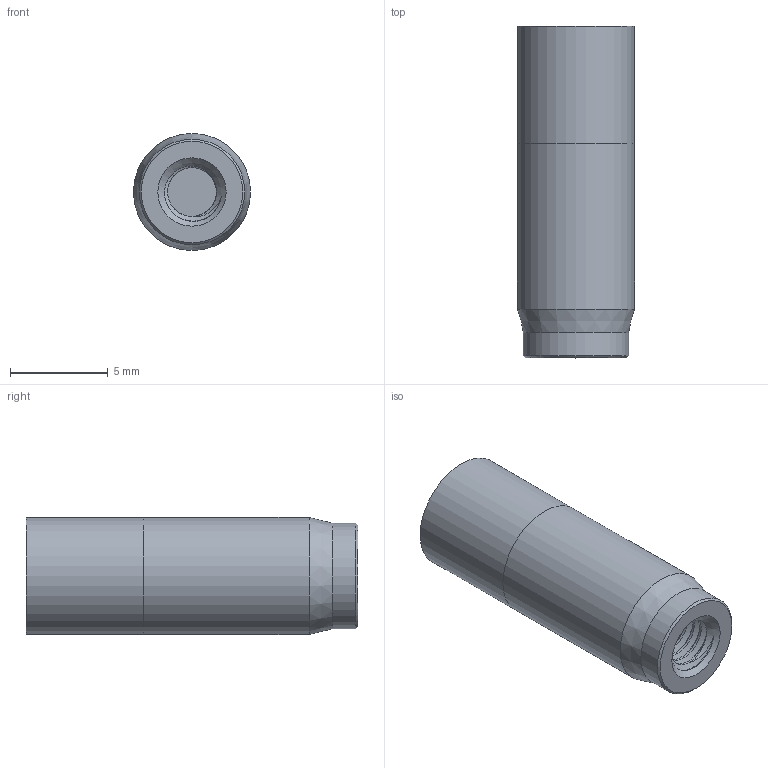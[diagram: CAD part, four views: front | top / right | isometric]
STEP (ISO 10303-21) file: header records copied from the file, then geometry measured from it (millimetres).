
FILE_DESCRIPTION (( 'STEP AP214' ), '1' );
FILE_NAME ('DAP-6.STEP', '2018-10-09T17:56:40', ( '' ), ( '' ), 'SwSTEP 2.0', 'SolidWorks 2017', '' );
FILE_SCHEMA (( 'AUTOMOTIVE_DESIGN' ));
Length unit declared in the file: millimetre
Products named in the file (1): DAP-6
Bounding box: 6 x 17.01 x 6 mm (x, y, z)
Volume: 411.4 mm3; surface area: 523.6 mm2
Topology: 2 solids, 2 shells, 90 faces, 232 edges, 154 vertices
Faces by surface type: plane 44, cylinder 40, cone 3, bspline 3
Full cylindrical faces by diameter (mm): 2.5 x6, 3.1 x1, 5.4 x1, 6 x2
Entity records: 3732 total; most frequent: CARTESIAN_POINT 1727, ORIENTED_EDGE 406, DIRECTION 302, EDGE_CURVE 203, VERTEX_POINT 139, LINE 114, VECTOR 114, EDGE_LOOP 102
